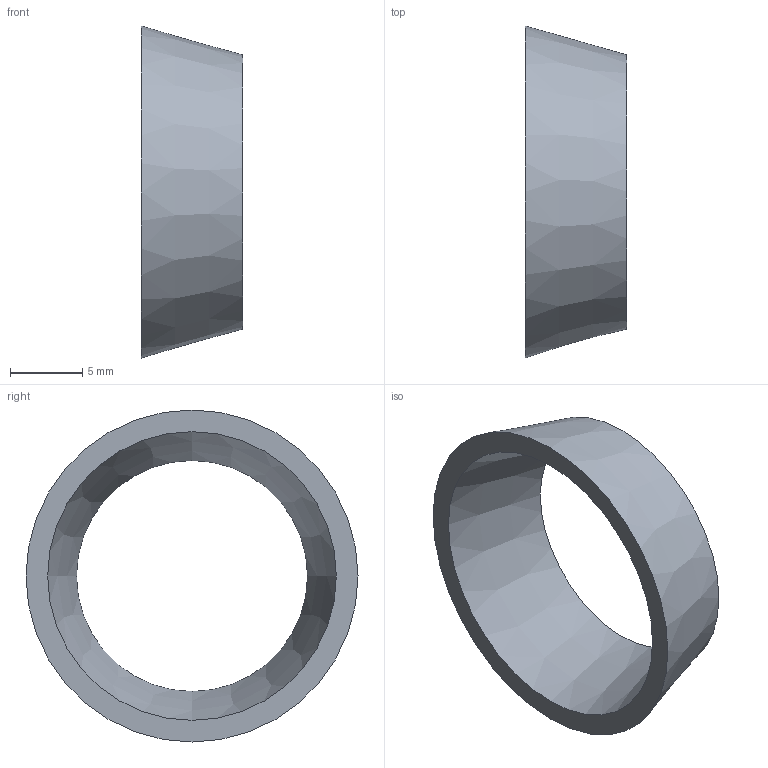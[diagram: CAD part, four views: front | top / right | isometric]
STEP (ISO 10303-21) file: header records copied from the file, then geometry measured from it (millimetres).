
FILE_DESCRIPTION(('FreeCAD Model'),'2;1');
FILE_NAME( '/home/martin/Documents/proyect/accesorios/stp/red-con_DN20-15.step', '2017-12-31T12:22:44',('Author'),(''), 'Open CASCADE STEP processor 6.8','FreeCAD','Unknown');
FILE_SCHEMA(('AUTOMOTIVE_DESIGN_CC2 { 1 2 10303 214 -1 1 5 4 }'));
Length unit declared in the file: millimetre
Products named in the file (1): red-con_DN20-15
Bounding box: 7 x 23 x 23 mm (x, y, z)
Volume: 643.2 mm3; surface area: 1075.8 mm2
Topology: 1 solids, 1 shells, 4 faces, 6 edges, 4 vertices
Faces by surface type: cone 2, plane 2
Entity records: 191 total; most frequent: CARTESIAN_POINT 33, DIRECTION 26, ORIENTED_EDGE 12, PCURVE 12, DEFINITIONAL_REPRESENTATION 12, AXIS2_PLACEMENT_3D 9, CIRCLE 8, FACE_BOUND 6
